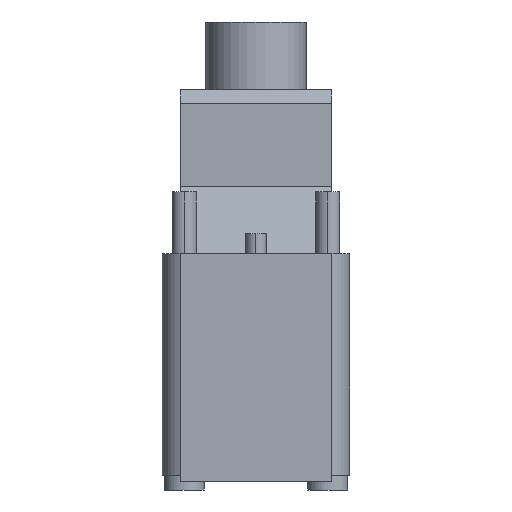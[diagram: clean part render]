
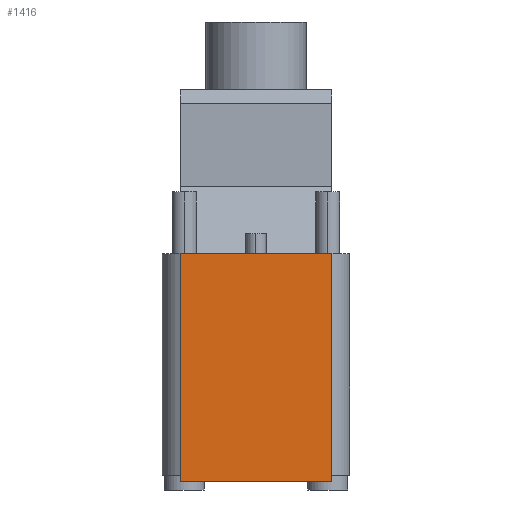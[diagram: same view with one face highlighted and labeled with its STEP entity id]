
A CAD part, left-side view. The second image highlights one B-rep face of the part: STEP entity #1416.
In plain terms, the highlighted planar face has unit normal (-1, 0, 0).
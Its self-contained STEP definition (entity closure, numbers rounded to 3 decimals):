
#39=DIRECTION('',(0.,-1.,0.));
#40=VECTOR('',#39,11.3);
#41=CARTESIAN_POINT('',(-35.7,5.65,-8.5));
#42=LINE('116',#41,#40);
#123=DIRECTION('',(0.,-1.,0.));
#124=VECTOR('',#123,11.3);
#125=CARTESIAN_POINT('',(-35.7,5.65,8.5));
#126=LINE('129',#125,#124);
#351=DIRECTION('',(0.,0.,1.));
#352=VECTOR('',#351,17.);
#353=CARTESIAN_POINT('',(-35.7,-5.65,-8.5));
#354=LINE('145',#353,#352);
#355=DIRECTION('',(0.,0.,1.));
#356=VECTOR('',#355,17.);
#357=CARTESIAN_POINT('',(-35.7,5.65,-8.5));
#358=LINE('143',#357,#356);
#766=CARTESIAN_POINT('',(-35.7,5.65,-8.5));
#768=VERTEX_POINT('',#766);
#769=CARTESIAN_POINT('',(-35.7,-5.65,-8.5));
#770=VERTEX_POINT('',#769);
#778=CARTESIAN_POINT('',(-35.7,5.65,8.5));
#780=VERTEX_POINT('',#778);
#781=CARTESIAN_POINT('',(-35.7,-5.65,8.5));
#782=VERTEX_POINT('',#781);
#1404=CARTESIAN_POINT('',(-35.7,5.65,-8.5));
#1405=DIRECTION('',(-1.,0.,0.));
#1406=DIRECTION('',(0.,-1.,0.));
#1407=AXIS2_PLACEMENT_3D('',#1404,#1405,#1406);
#1408=PLANE('142',#1407);
#1409=ORIENTED_EDGE('116',*,*,#1014,.F.);
#1411=ORIENTED_EDGE('143',*,*,#1410,.T.);
#1412=ORIENTED_EDGE('129',*,*,#1121,.T.);
#1413=ORIENTED_EDGE('145',*,*,#1384,.F.);
#1414=EDGE_LOOP('142',(#1409,#1411,#1412,#1413));
#1415=FACE_OUTER_BOUND('142',#1414,.F.);
#1416=ADVANCED_FACE('142',(#1415),#1408,.T.);
#1014=EDGE_CURVE('116',#768,#770,#42,.T.);
#1121=EDGE_CURVE('129',#780,#782,#126,.T.);
#1384=EDGE_CURVE('145',#770,#782,#354,.T.);
#1410=EDGE_CURVE('143',#768,#780,#358,.T.);
